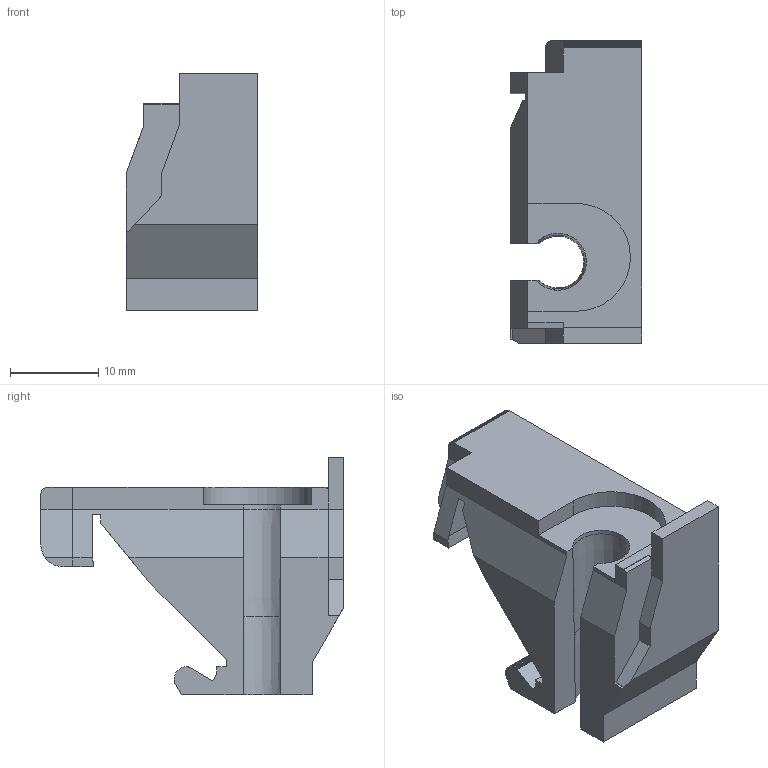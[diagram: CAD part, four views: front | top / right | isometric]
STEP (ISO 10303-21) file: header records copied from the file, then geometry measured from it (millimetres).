
FILE_DESCRIPTION(('Open CASCADE Model'),'2;1');
FILE_NAME('Open CASCADE Shape Model','2026-10-27T10:19:41',('Author'),( 'Open CASCADE'),'Open CASCADE STEP processor 8.0','build123d', 'Unknown');
FILE_SCHEMA(('AUTOMOTIVE_DESIGN { 1 0 10303 214 1 1 1 1 }'));
Length unit declared in the file: millimetre
Products named in the file (1): SOLID
Bounding box: 14.9 x 34.2 x 26.9 mm (x, y, z)
Volume: 6266.7 mm3; surface area: 3217.4 mm2
Topology: 1 solids, 1 shells, 100 faces, 293 edges, 195 vertices
Faces by surface type: plane 96, cone 3, cylinder 1
Entity records: 6803 total; most frequent: CARTESIAN_POINT 1896, DIRECTION 592, ORIENTED_EDGE 586, PCURVE 586, DEFINITIONAL_REPRESENTATION 586, B_SPLINE_CURVE_WITH_KNOTS 493, LINE 376, VECTOR 376
